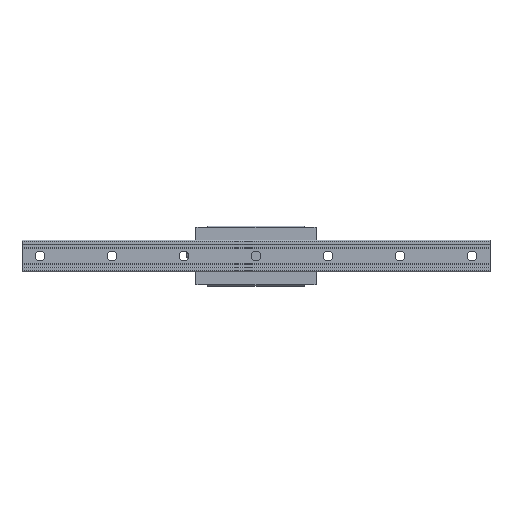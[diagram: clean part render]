
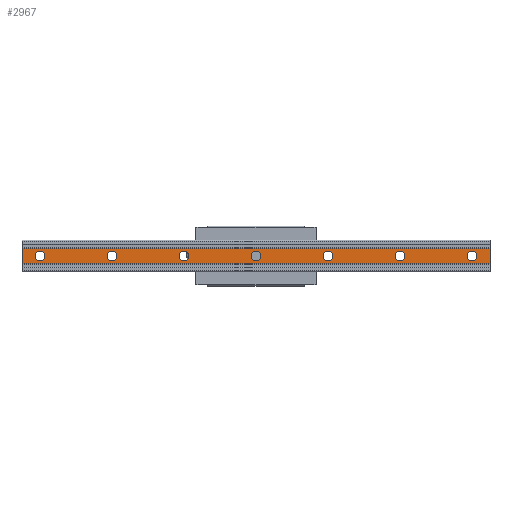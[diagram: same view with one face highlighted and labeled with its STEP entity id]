
A CAD part, front view. The second image highlights one B-rep face of the part: STEP entity #2967.
In plain terms, the highlighted planar face has unit normal (0, -1, 0).
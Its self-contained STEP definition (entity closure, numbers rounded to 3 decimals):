
#109=CIRCLE('',#3199,8.);
#110=CIRCLE('',#3200,8.);
#111=CIRCLE('',#3201,8.);
#112=CIRCLE('',#3202,8.);
#113=CIRCLE('',#3203,8.);
#114=CIRCLE('',#3204,8.);
#115=CIRCLE('',#3205,8.);
#349=ORIENTED_EDGE('',*,*,#1155,.F.);
#350=ORIENTED_EDGE('',*,*,#1156,.F.);
#351=ORIENTED_EDGE('',*,*,#1157,.F.);
#352=ORIENTED_EDGE('',*,*,#1158,.F.);
#353=ORIENTED_EDGE('',*,*,#1159,.F.);
#354=ORIENTED_EDGE('',*,*,#1160,.F.);
#355=ORIENTED_EDGE('',*,*,#1161,.F.);
#356=ORIENTED_EDGE('',*,*,#1162,.T.);
#357=ORIENTED_EDGE('',*,*,#1163,.F.);
#358=ORIENTED_EDGE('',*,*,#1164,.F.);
#359=ORIENTED_EDGE('',*,*,#1153,.T.);
#1153=EDGE_CURVE('',#1551,#1550,#1858,.T.);
#1155=EDGE_CURVE('',#1552,#1552,#109,.T.);
#1156=EDGE_CURVE('',#1553,#1553,#110,.T.);
#1157=EDGE_CURVE('',#1554,#1554,#111,.T.);
#1158=EDGE_CURVE('',#1555,#1555,#112,.T.);
#1159=EDGE_CURVE('',#1556,#1556,#113,.T.);
#1160=EDGE_CURVE('',#1557,#1557,#114,.T.);
#1161=EDGE_CURVE('',#1558,#1558,#115,.T.);
#1162=EDGE_CURVE('',#1550,#1559,#1860,.T.);
#1163=EDGE_CURVE('',#1560,#1559,#1861,.T.);
#1164=EDGE_CURVE('',#1551,#1560,#1862,.T.);
#1550=VERTEX_POINT('',#4486);
#1551=VERTEX_POINT('',#4488);
#1552=VERTEX_POINT('',#4492);
#1553=VERTEX_POINT('',#4494);
#1554=VERTEX_POINT('',#4496);
#1555=VERTEX_POINT('',#4498);
#1556=VERTEX_POINT('',#4500);
#1557=VERTEX_POINT('',#4502);
#1558=VERTEX_POINT('',#4504);
#1559=VERTEX_POINT('',#4506);
#1560=VERTEX_POINT('',#4508);
#1858=LINE('',#4487,#2100);
#1860=LINE('',#4505,#2102);
#1861=LINE('',#4507,#2103);
#1862=LINE('',#4509,#2104);
#2100=VECTOR('',#3580,1000.);
#2102=VECTOR('',#3598,1000.);
#2103=VECTOR('',#3599,1000.);
#2104=VECTOR('',#3600,1000.);
#2325=EDGE_LOOP('',(#349));
#2326=EDGE_LOOP('',(#350));
#2327=EDGE_LOOP('',(#351));
#2328=EDGE_LOOP('',(#352));
#2329=EDGE_LOOP('',(#353));
#2330=EDGE_LOOP('',(#354));
#2331=EDGE_LOOP('',(#355));
#2332=EDGE_LOOP('',(#356,#357,#358,#359));
#2592=FACE_BOUND('',#2325,.T.);
#2593=FACE_BOUND('',#2326,.T.);
#2594=FACE_BOUND('',#2327,.T.);
#2595=FACE_BOUND('',#2328,.T.);
#2596=FACE_BOUND('',#2329,.T.);
#2597=FACE_BOUND('',#2330,.T.);
#2598=FACE_BOUND('',#2331,.T.);
#2599=FACE_BOUND('',#2332,.T.);
#2863=PLANE('',#3198);
#2967=ADVANCED_FACE('',(#2592,#2593,#2594,#2595,#2596,#2597,#2598,#2599),
#2863,.F.);
#3198=AXIS2_PLACEMENT_3D('',#4490,#3582,#3583);
#3199=AXIS2_PLACEMENT_3D('',#4491,#3584,#3585);
#3200=AXIS2_PLACEMENT_3D('',#4493,#3586,#3587);
#3201=AXIS2_PLACEMENT_3D('',#4495,#3588,#3589);
#3202=AXIS2_PLACEMENT_3D('',#4497,#3590,#3591);
#3203=AXIS2_PLACEMENT_3D('',#4499,#3592,#3593);
#3204=AXIS2_PLACEMENT_3D('',#4501,#3594,#3595);
#3205=AXIS2_PLACEMENT_3D('',#4503,#3596,#3597);
#3580=DIRECTION('',(-1.,0.,0.));
#3582=DIRECTION('',(0.,1.,0.));
#3583=DIRECTION('',(0.,0.,1.));
#3584=DIRECTION('',(0.,-1.,0.));
#3585=DIRECTION('',(0.,0.,-1.));
#3586=DIRECTION('',(0.,-1.,0.));
#3587=DIRECTION('',(0.,0.,-1.));
#3588=DIRECTION('',(0.,-1.,0.));
#3589=DIRECTION('',(0.,0.,-1.));
#3590=DIRECTION('',(0.,-1.,0.));
#3591=DIRECTION('',(0.,0.,-1.));
#3592=DIRECTION('',(0.,-1.,0.));
#3593=DIRECTION('',(0.,0.,-1.));
#3594=DIRECTION('',(0.,-1.,0.));
#3595=DIRECTION('',(0.,0.,-1.));
#3596=DIRECTION('',(0.,-1.,0.));
#3597=DIRECTION('',(0.,0.,-1.));
#3598=DIRECTION('',(0.,0.,-1.));
#3599=DIRECTION('',(-1.,0.,0.));
#3600=DIRECTION('',(0.,0.,-1.));
#4486=CARTESIAN_POINT('',(-30.,0.,13.));
#4487=CARTESIAN_POINT('',(750.,0.,13.));
#4488=CARTESIAN_POINT('',(750.,0.,13.));
#4490=CARTESIAN_POINT('',(750.,0.,13.));
#4491=CARTESIAN_POINT('',(120.,0.,0.));
#4492=CARTESIAN_POINT('',(120.,0.,-8.));
#4493=CARTESIAN_POINT('',(240.,0.,0.));
#4494=CARTESIAN_POINT('',(240.,0.,-8.));
#4495=CARTESIAN_POINT('',(360.,0.,0.));
#4496=CARTESIAN_POINT('',(360.,0.,-8.));
#4497=CARTESIAN_POINT('',(480.,0.,0.));
#4498=CARTESIAN_POINT('',(480.,0.,-8.));
#4499=CARTESIAN_POINT('',(600.,0.,0.));
#4500=CARTESIAN_POINT('',(600.,0.,-8.));
#4501=CARTESIAN_POINT('',(720.,0.,0.));
#4502=CARTESIAN_POINT('',(720.,0.,-8.));
#4503=CARTESIAN_POINT('',(0.,0.,0.));
#4504=CARTESIAN_POINT('',(0.,0.,-8.));
#4505=CARTESIAN_POINT('',(-30.,0.,13.));
#4506=CARTESIAN_POINT('',(-30.,0.,-13.));
#4507=CARTESIAN_POINT('',(750.,0.,-13.));
#4508=CARTESIAN_POINT('',(750.,0.,-13.));
#4509=CARTESIAN_POINT('',(750.,0.,13.));
